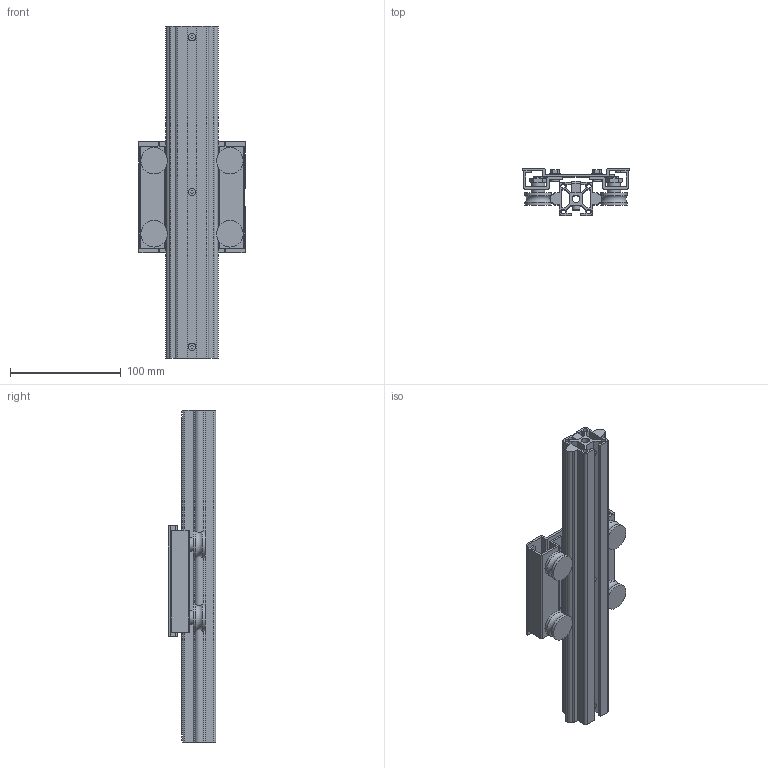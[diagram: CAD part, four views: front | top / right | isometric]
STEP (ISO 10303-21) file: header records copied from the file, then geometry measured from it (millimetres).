
FILE_DESCRIPTION (( 'STEP AP214' ), '1' );
FILE_NAME ('LSR3030B.STEP', '2020-06-23T04:42:46', ( '' ), ( '' ), 'SwSTEP 2.0', 'SolidWorks 2019', '' );
FILE_SCHEMA (( 'AUTOMOTIVE_DESIGN' ));
Length unit declared in the file: millimetre
Products named in the file (5): LSR3030Bレール; LS30B用ラック; LSR30用レール; LS3030Bキャリッジ; LSR3030B
Assembly tree (4 placements, depth 3):
  LSR3030B
    LSR3030Bレール
      LSR30用レール
      LS30B用ラック
    LS3030Bキャリッジ
Bounding box: 96 x 43 x 300 mm (x, y, z)
Volume: 249077.6 mm3; surface area: 170758.9 mm2
Topology: 7 solids, 7 shells, 388 faces, 971 edges, 625 vertices
Faces by surface type: plane 239, cylinder 85, cone 60, torus 4
Full cylindrical faces by diameter (mm): 4.134 x4, 4.2 x4, 6.647 x4, 6.8 x1, 7 x3, 8 x8, 10 x4, 12 x4, 12.3 x4, 24 x8
Entity records: 11274 total; most frequent: CARTESIAN_POINT 2104, DIRECTION 1830, ORIENTED_EDGE 1802, EDGE_CURVE 901, AXIS2_PLACEMENT_3D 629, VERTEX_POINT 615, LINE 572, VECTOR 572
